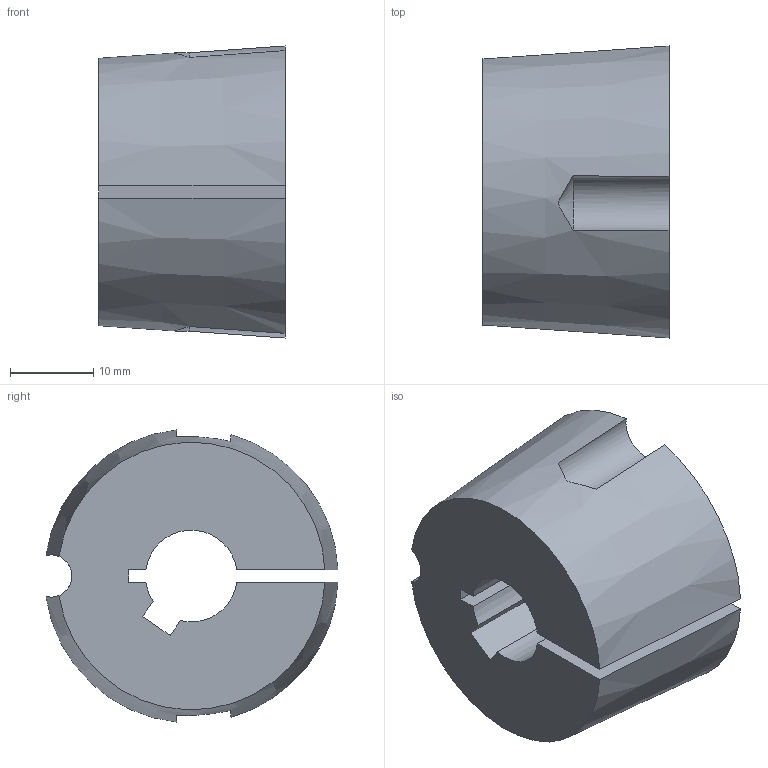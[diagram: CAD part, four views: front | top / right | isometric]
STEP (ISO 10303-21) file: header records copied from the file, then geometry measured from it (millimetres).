
FILE_DESCRIPTION( ( 'STEP AP203' ), '1' );
FILE_NAME( 'D:/export/antriebselemente/spannbuchsen_und_spannsaetze/taper-spannbuchsen_1008_bis_5050/taper-spannbuchsen_62250111Isometric_3.stp', '2018-12-11T11:10:55', ( '' ), ( '' ), ' ', 'PARTsolutions', ' ' );
FILE_SCHEMA( ( 'CONFIG_CONTROL_DESIGN' ) );
Length unit declared in the file: millimetre
Products named in the file (1): _taper-spannbuchsen_62250111
Bounding box: 22.3 x 35.01 x 35.02 mm (x, y, z)
Volume: 16444.9 mm3; surface area: 5395.7 mm2
Topology: 1 solids, 1 shells, 20 faces, 54 edges, 36 vertices
Faces by surface type: plane 10, cylinder 6, cone 4
Entity records: 736 total; most frequent: CARTESIAN_POINT 187, ORIENTED_EDGE 108, DIRECTION 104, EDGE_CURVE 54, AXIS2_PLACEMENT_3D 39, VERTEX_POINT 36, LINE 26, VECTOR 26
